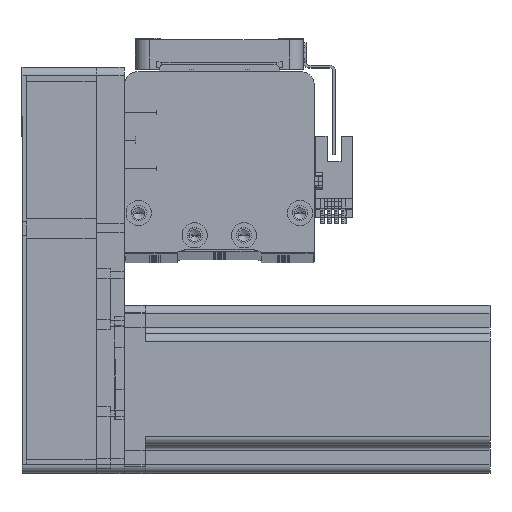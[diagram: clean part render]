
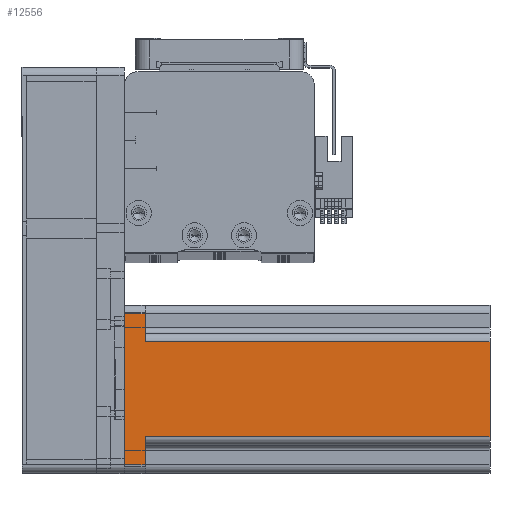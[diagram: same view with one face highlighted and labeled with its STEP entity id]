
A CAD part, top view. The second image highlights one B-rep face of the part: STEP entity #12556.
In plain terms, the highlighted planar face has unit normal (0, 0, 1) as drawn and (0, -1, 0) by its records, which use the part's own axes.
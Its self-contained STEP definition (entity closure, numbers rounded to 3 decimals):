
#1554 = CARTESIAN_POINT ( 'NONE',  ( -17., -30., 7.5 ) ) ;
#2157 = DIRECTION ( 'NONE',  ( 0., 0., 1. ) ) ;
#2685 = LINE ( 'NONE', #45504, #35507 ) ;
#3738 = DIRECTION ( 'NONE',  ( 0., 1., 0. ) ) ;
#3799 = CARTESIAN_POINT ( 'NONE',  ( -20., -30., 7.5 ) ) ;
#6551 = CARTESIAN_POINT ( 'NONE',  ( -17., -30., 130.7 ) ) ;
#7184 = ORIENTED_EDGE ( 'NONE', *, *, #8428, .F. ) ;
#7882 = PLANE ( 'NONE',  #34384 ) ;
#7915 = VERTEX_POINT ( 'NONE', #53710 ) ;
#8428 = EDGE_CURVE ( 'NONE', #7915, #16217, #15658, .T. ) ;
#11484 = ORIENTED_EDGE ( 'NONE', *, *, #24801, .T. ) ;
#12145 = VERTEX_POINT ( 'NONE', #53796 ) ;
#12556 = ADVANCED_FACE ( 'NONE', ( #44531 ), #7882, .F. ) ;
#13643 = ORIENTED_EDGE ( 'NONE', *, *, #43265, .F. ) ;
#15658 = LINE ( 'NONE', #3799, #48431 ) ;
#16217 = VERTEX_POINT ( 'NONE', #1554 ) ;
#18003 = CARTESIAN_POINT ( 'NONE',  ( 27., -30., 7.5 ) ) ;
#18216 = CARTESIAN_POINT ( 'NONE',  ( -17., -30., 130.7 ) ) ;
#18412 = DIRECTION ( 'NONE',  ( 0., 0., -1. ) ) ;
#18543 = VECTOR ( 'NONE', #2157, 1000. ) ;
#20142 = CARTESIAN_POINT ( 'NONE',  ( -27., -30., 130.7 ) ) ;
#23535 = EDGE_CURVE ( 'NONE', #7915, #24956, #42424, .T. ) ;
#23554 = CARTESIAN_POINT ( 'NONE',  ( 27., -30., 130.7 ) ) ;
#24048 = CARTESIAN_POINT ( 'NONE',  ( 30., -30., 0. ) ) ;
#24186 = DIRECTION ( 'NONE',  ( -1., 0., 0. ) ) ;
#24276 = CARTESIAN_POINT ( 'NONE',  ( 30., -30., 130.7 ) ) ;
#24404 = DIRECTION ( 'NONE',  ( 0., 0., -1. ) ) ;
#24801 = EDGE_CURVE ( 'NONE', #38753, #32475, #52776, .T. ) ;
#24956 = VERTEX_POINT ( 'NONE', #42418 ) ;
#25172 = VECTOR ( 'NONE', #18412, 1000. ) ;
#25714 = VECTOR ( 'NONE', #41275, 1000. ) ;
#27308 = CARTESIAN_POINT ( 'NONE',  ( 17., -30., 130.7 ) ) ;
#27694 = ORIENTED_EDGE ( 'NONE', *, *, #32582, .T. ) ;
#29428 = CARTESIAN_POINT ( 'NONE',  ( 30., -30., 130.7 ) ) ;
#29490 = DIRECTION ( 'NONE',  ( 1., 0., 0. ) ) ;
#29898 = ORIENTED_EDGE ( 'NONE', *, *, #46477, .T. ) ;
#31100 = LINE ( 'NONE', #24048, #25714 ) ;
#31206 = EDGE_CURVE ( 'NONE', #52185, #38753, #2685, .T. ) ;
#31610 = LINE ( 'NONE', #24276, #42431 ) ;
#32475 = VERTEX_POINT ( 'NONE', #27308 ) ;
#32582 = EDGE_CURVE ( 'NONE', #12145, #52185, #52621, .T. ) ;
#33627 = VERTEX_POINT ( 'NONE', #6551 ) ;
#33731 = DIRECTION ( 'NONE',  ( -1., 0., 0. ) ) ;
#34384 = AXIS2_PLACEMENT_3D ( 'NONE', #29428, #3738, #33731 ) ;
#34574 = EDGE_CURVE ( 'NONE', #33627, #16217, #48505, .T. ) ;
#35507 = VECTOR ( 'NONE', #24186, 1000. ) ;
#37173 = DIRECTION ( 'NONE',  ( 1., 0., 0. ) ) ;
#38753 = VERTEX_POINT ( 'NONE', #47661 ) ;
#41275 = DIRECTION ( 'NONE',  ( 1., 0., 0. ) ) ;
#41469 = VECTOR ( 'NONE', #54168, 1000. ) ;
#42418 = CARTESIAN_POINT ( 'NONE',  ( -27., -30., 0. ) ) ;
#42424 = LINE ( 'NONE', #20142, #51076 ) ;
#42431 = VECTOR ( 'NONE', #37173, 1000. ) ;
#42652 = ORIENTED_EDGE ( 'NONE', *, *, #23535, .T. ) ;
#42884 = EDGE_LOOP ( 'NONE', ( #13643, #55390, #7184, #42652, #29898, #27694, #48733, #11484 ) ) ;
#43265 = EDGE_CURVE ( 'NONE', #33627, #32475, #31610, .T. ) ;
#44531 = FACE_OUTER_BOUND ( 'NONE', #42884, .T. ) ;
#45504 = CARTESIAN_POINT ( 'NONE',  ( 20., -30., 7.5 ) ) ;
#46477 = EDGE_CURVE ( 'NONE', #24956, #12145, #31100, .T. ) ;
#47661 = CARTESIAN_POINT ( 'NONE',  ( 17., -30., 7.5 ) ) ;
#48431 = VECTOR ( 'NONE', #29490, 1000. ) ;
#48505 = LINE ( 'NONE', #18216, #25172 ) ;
#48733 = ORIENTED_EDGE ( 'NONE', *, *, #31206, .T. ) ;
#49897 = CARTESIAN_POINT ( 'NONE',  ( 17., -30., 130.7 ) ) ;
#51076 = VECTOR ( 'NONE', #24404, 1000. ) ;
#52185 = VERTEX_POINT ( 'NONE', #18003 ) ;
#52621 = LINE ( 'NONE', #23554, #18543 ) ;
#52776 = LINE ( 'NONE', #49897, #41469 ) ;
#53710 = CARTESIAN_POINT ( 'NONE',  ( -27., -30., 7.5 ) ) ;
#53796 = CARTESIAN_POINT ( 'NONE',  ( 27., -30., 0. ) ) ;
#54168 = DIRECTION ( 'NONE',  ( 0., 0., 1. ) ) ;
#55390 = ORIENTED_EDGE ( 'NONE', *, *, #34574, .T. ) ;
